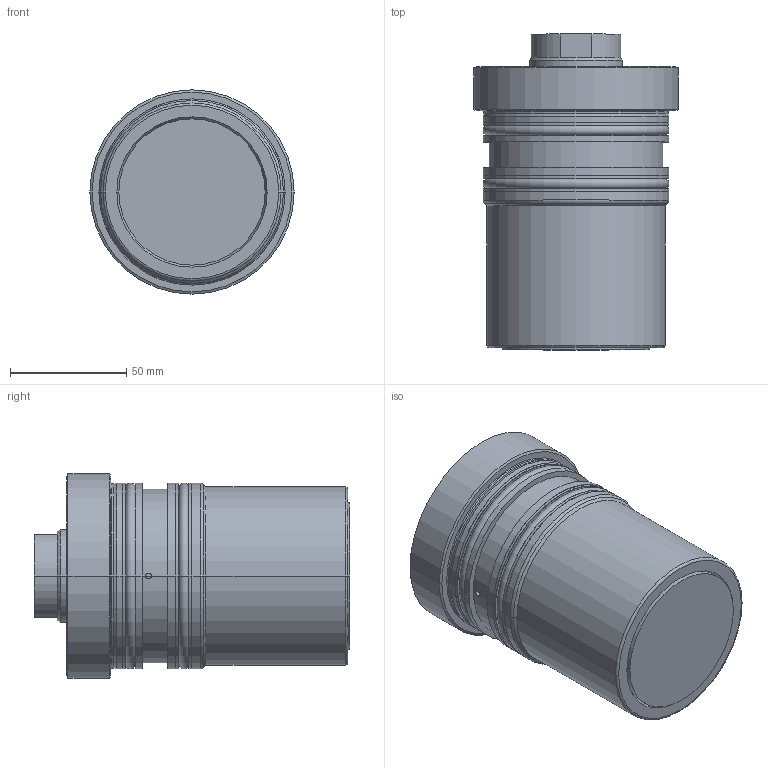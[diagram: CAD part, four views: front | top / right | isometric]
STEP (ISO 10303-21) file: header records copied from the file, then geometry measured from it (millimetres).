
FILE_DESCRIPTION (( 'STEP AP203' ), '1' );
FILE_NAME ('GERMA_Einschraubzylinder_200-063-063.STEP', '2023-09-06T08:33:50', ( '' ), ( '' ), 'SwSTEP 2.0', 'SolidWorks 2016', '' );
FILE_SCHEMA (( 'CONFIG_CONTROL_DESIGN' ));
Length unit declared in the file: millimetre
Products named in the file (3): Gehaeuse 200-063_Gehaeuse 200-063-063; GERMA_Einschraubzylinder_200-063-063; Kolben 60x-063_Kolben DU.63-Hub63-IG
Assembly tree (2 placements, depth 2):
  GERMA_Einschraubzylinder_200-063-063
    Gehaeuse 200-063_Gehaeuse 200-063-063
    Kolben 60x-063_Kolben DU.63-Hub63-IG
Bounding box: 88 x 136 x 88 mm (x, y, z)
Volume: 473273.4 mm3; surface area: 93599.9 mm2
Topology: 2 solids, 2 shells, 252 faces, 623 edges, 396 vertices
Faces by surface type: plane 95, bspline 68, cylinder 45, torus 22, cone 22
Entity records: 11341 total; most frequent: CARTESIAN_POINT 5450, ORIENTED_EDGE 1234, DIRECTION 998, EDGE_CURVE 617, VERTEX_POINT 396, AXIS2_PLACEMENT_3D 336, VECTOR 326, LINE 326
